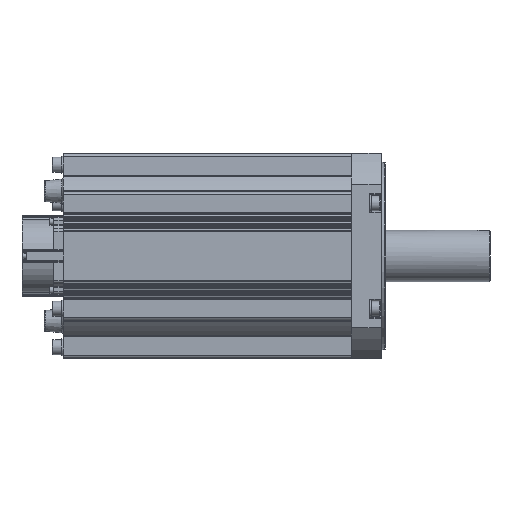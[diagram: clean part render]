
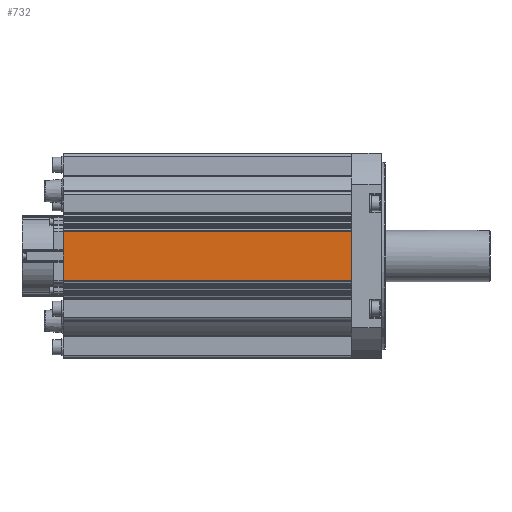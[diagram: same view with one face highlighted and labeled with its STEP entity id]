
A CAD part, front view. The second image highlights one B-rep face of the part: STEP entity #732.
In plain terms, the highlighted planar face has unit normal (0, -1, 0).
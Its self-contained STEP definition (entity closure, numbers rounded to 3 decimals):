
#732 = ADVANCED_FACE( '', ( #2618 ), #2619, .T. );
#2618 = FACE_OUTER_BOUND( '', #4998, .T. );
#2619 = PLANE( '', #4999 );
#4998 = EDGE_LOOP( '', ( #10925, #10926, #10927, #10928 ) );
#4999 = AXIS2_PLACEMENT_3D( '', #10929, #10930, #10931 );
#10925 = ORIENTED_EDGE( '', *, *, #15791, .F. );
#10926 = ORIENTED_EDGE( '', *, *, #15792, .F. );
#10927 = ORIENTED_EDGE( '', *, *, #14871, .T. );
#10928 = ORIENTED_EDGE( '', *, *, #15790, .T. );
#10929 = CARTESIAN_POINT( '', ( -340., -109., 26. ) );
#10930 = DIRECTION( '', ( 0., -1., 0. ) );
#10931 = DIRECTION( '', ( 0., 0., -1. ) );
#14871 = EDGE_CURVE( '', #18057, #18055, #18058, .T. );
#15790 = EDGE_CURVE( '', #18055, #19542, #19544, .T. );
#15791 = EDGE_CURVE( '', #19545, #19542, #19546, .T. );
#15792 = EDGE_CURVE( '', #18057, #19545, #19547, .T. );
#18055 = VERTEX_POINT( '', #22928 );
#18057 = VERTEX_POINT( '', #22930 );
#18058 = LINE( '', #22931, #22932 );
#19542 = VERTEX_POINT( '', #25194 );
#19544 = LINE( '', #25196, #25197 );
#19545 = VERTEX_POINT( '', #25198 );
#19546 = LINE( '', #25199, #25200 );
#19547 = LINE( '', #25201, #25202 );
#22928 = CARTESIAN_POINT( '', ( -340., -109., -26. ) );
#22930 = CARTESIAN_POINT( '', ( -340., -109., 26. ) );
#22931 = CARTESIAN_POINT( '', ( -340., -109., 26. ) );
#22932 = VECTOR( '', #28914, 1000. );
#25194 = CARTESIAN_POINT( '', ( -32., -109., -26. ) );
#25196 = CARTESIAN_POINT( '', ( -340., -109., -26. ) );
#25197 = VECTOR( '', #30277, 1000. );
#25198 = CARTESIAN_POINT( '', ( -32., -109., 26. ) );
#25199 = CARTESIAN_POINT( '', ( -32., -109., 26. ) );
#25200 = VECTOR( '', #30278, 1000. );
#25201 = CARTESIAN_POINT( '', ( -340., -109., 26. ) );
#25202 = VECTOR( '', #30279, 1000. );
#28914 = DIRECTION( '', ( 0., 0., -1. ) );
#30277 = DIRECTION( '', ( 1., 0., 0. ) );
#30278 = DIRECTION( '', ( 0., 0., -1. ) );
#30279 = DIRECTION( '', ( 1., 0., 0. ) );
